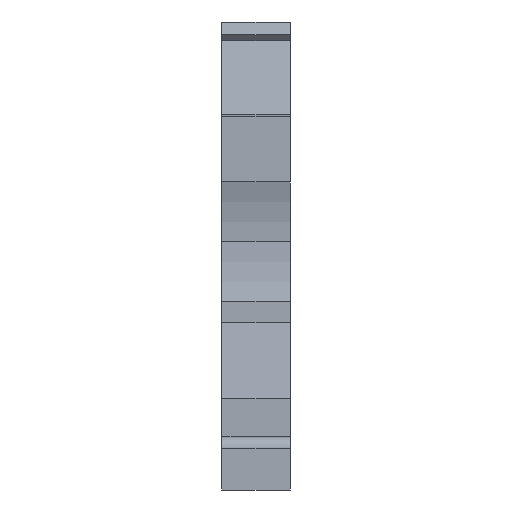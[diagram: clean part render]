
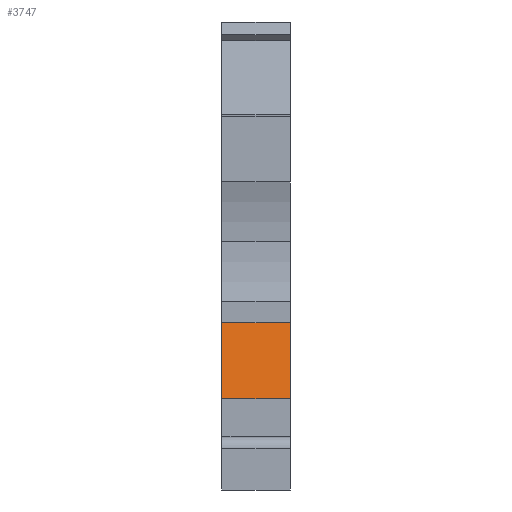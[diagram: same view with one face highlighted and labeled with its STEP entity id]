
A CAD part, front view. The second image highlights one B-rep face of the part: STEP entity #3747.
In plain terms, the highlighted planar face has unit normal (0, -0.985, 0.174).
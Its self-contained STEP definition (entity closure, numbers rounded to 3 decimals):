
#926=CARTESIAN_POINT('',(-0.,3.6,6.862));
#927=VERTEX_POINT('',#926);
#934=CARTESIAN_POINT('',(-0.,4.612,12.6));
#935=VERTEX_POINT('',#934);
#936=CARTESIAN_POINT('',(-0.,3.6,6.862));
#937=DIRECTION('',(-0.,0.174,0.985));
#938=VECTOR('',#937,5.827);
#939=LINE('',#936,#938);
#940=EDGE_CURVE('',#927,#935,#939,.T.);
#2876=CARTESIAN_POINT('',(5.15,4.612,12.6));
#2877=VERTEX_POINT('',#2876);
#2884=CARTESIAN_POINT('',(5.15,3.6,6.862));
#2885=VERTEX_POINT('',#2884);
#2886=CARTESIAN_POINT('',(5.15,3.6,6.862));
#2887=DIRECTION('',(-0.,0.174,0.985));
#2888=VECTOR('',#2887,5.827);
#2889=LINE('',#2886,#2888);
#2890=EDGE_CURVE('',#2885,#2877,#2889,.T.);
#3704=CARTESIAN_POINT('',(-0.,3.6,6.862));
#3705=DIRECTION('',(1.,-0.,0.));
#3706=VECTOR('',#3705,5.15);
#3707=LINE('',#3704,#3706);
#3708=EDGE_CURVE('',#927,#2885,#3707,.T.);
#3731=CARTESIAN_POINT('',(5.15,3.801,8.));
#3732=DIRECTION('',(-0.,-0.985,0.174));
#3733=DIRECTION('',(1.,-0.,0.));
#3734=AXIS2_PLACEMENT_3D('',#3731,#3732,#3733);
#3735=PLANE('',#3734);
#3736=ORIENTED_EDGE('',*,*,#2890,.T.);
#3737=CARTESIAN_POINT('',(5.15,4.612,12.6));
#3738=DIRECTION('',(-1.,0.,-0.));
#3739=VECTOR('',#3738,5.15);
#3740=LINE('',#3737,#3739);
#3741=EDGE_CURVE('',#2877,#935,#3740,.T.);
#3742=ORIENTED_EDGE('',*,*,#3741,.T.);
#3743=ORIENTED_EDGE('',*,*,#940,.F.);
#3744=ORIENTED_EDGE('',*,*,#3708,.T.);
#3745=EDGE_LOOP('',(#3736,#3742,#3743,#3744));
#3746=FACE_BOUND('',#3745,.T.);
#3747=ADVANCED_FACE('',(#3746),#3735,.T.);
